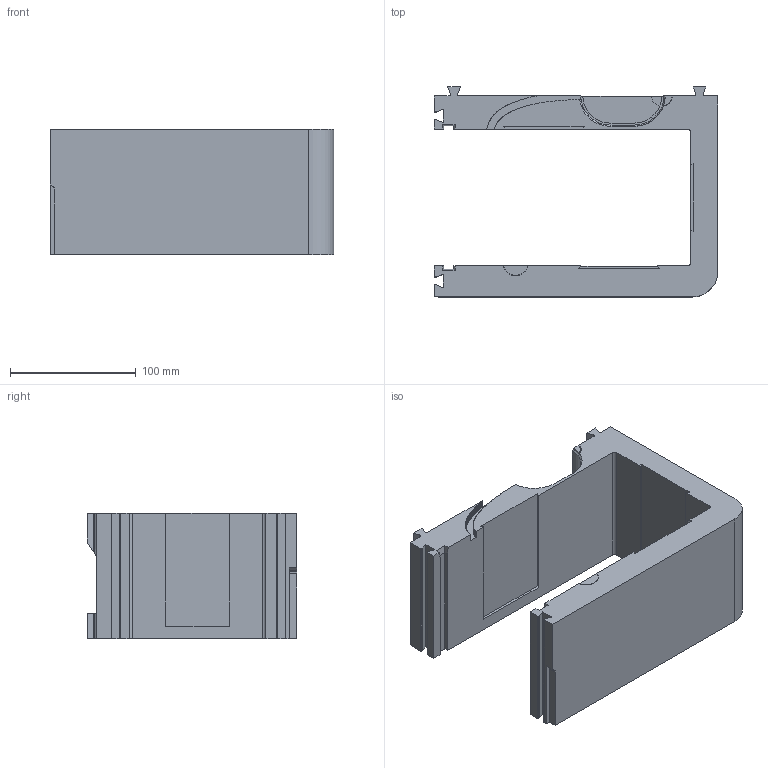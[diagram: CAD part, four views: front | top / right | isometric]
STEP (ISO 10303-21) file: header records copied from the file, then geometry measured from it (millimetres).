
FILE_DESCRIPTION(('Open CASCADE Model'),'2;1');
FILE_NAME('Open CASCADE Shape Model','2026-11-01T05:33:57',('Author'),( 'Open CASCADE'),'Open CASCADE STEP processor 7.8','Open CASCADE 7.8' ,'Unknown');
FILE_SCHEMA(('AUTOMOTIVE_DESIGN { 1 0 10303 214 1 1 1 1 }'));
Length unit declared in the file: millimetre
Products named in the file (1): Open CASCADE STEP translator 7.8 1
Bounding box: 225.86 x 167.13 x 100 mm (x, y, z)
Volume: 1271033 mm3; surface area: 155102.2 mm2
Topology: 1 solids, 1 shells, 296 faces, 869 edges, 576 vertices
Faces by surface type: plane 258, cylinder 30, bspline 6, cone 2
Entity records: 21098 total; most frequent: CARTESIAN_POINT 4106, DIRECTION 3039, LINE 2267, VECTOR 2267, ORIENTED_EDGE 1738, PCURVE 1738, DEFINITIONAL_REPRESENTATION 1738, EDGE_CURVE 869
